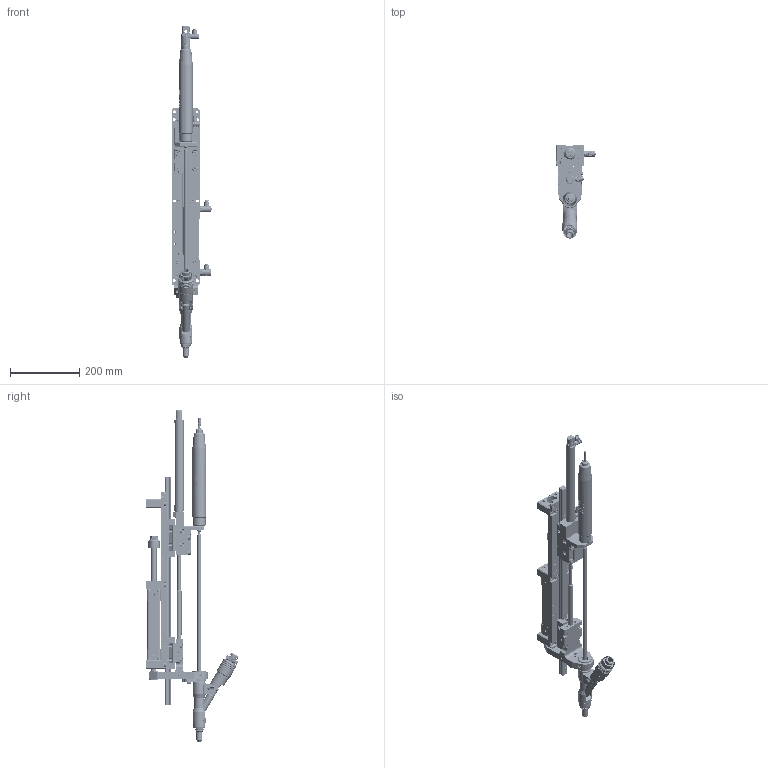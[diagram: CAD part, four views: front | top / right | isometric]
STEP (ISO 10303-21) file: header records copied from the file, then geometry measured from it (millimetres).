
FILE_DESCRIPTION(/* description */ ('© Copyright 2019 – Urheberrechtshinweis Diese CAD-Daten sind urheberrechtlich geschützt. Das Urheberrecht liegt, soweit nicht ausdrücklich anders gekennzeichnet, bei Stöger Automation GmbH. Bitte fragen Sie uns, falls Sie die CAD-Daten vervielfältigen oder','CAx-IF Rec.Pracs.---Representation and Presentation of Product Manufacturing Information (PMI)---4.0---2014-10-13'),/* implementation_level */ '2;1');
FILE_NAME(/* name */ 'H:\00_0 Arbeiten für Marketing\581010\3D_Step_file_automatic_screwdriver_for_screws_SEL101.stp',/* time_stamp */ '2020-07-22T09:43:05+02:00',/* author */ ('Stöger Automation GmbH'),/* organization */ ('Stöger Automation GmbH'),/* preprocessor_version */ 'ST-DEVELOPER v17',/* originating_system */ 'Autodesk Inventor 2018',/* authorisation */ '');
FILE_SCHEMA (('AP242_MANAGED_MODEL_BASED_3D_ENGINEERING_MIM_LF { 1 0 10303 442 1 1 4 }'));
Products named in the file (1): 581010
Bounding box: 115.5 x 268.54 x 959.5 mm (x, y, z)
Volume: 2602308.4 mm3; surface area: 732955.3 mm2
Topology: 7 solids, 78 shells, 5420 faces, 14833 edges, 9893 vertices
Faces by surface type: plane 2675, cylinder 1400, bspline 613, cone 594, torus 123, sphere 15
Full cylindrical faces by diameter (mm): 1 x4, 1.5 x2, 3 x2, 3.1 x2, 3.242 x5, 3.9 x2, 4 x13, 4.134 x22, 4.2 x3, 4.7 x1, 4.917 x25, 5 x18, 5.2 x12, 5.459 x2, 6 x34, 6.2 x11, 6.4 x8, 6.5 x5, 6.647 x28, 7 x1, 8 x24, 8.2 x11, 8.376 x1, 8.4 x19, 8.5 x24, 8.566 x3, 8.8 x1, 9 x1, 9.2 x11, 9.5 x11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
Entity records: 336639 total; most frequent: CARTESIAN_POINT 198058, ORIENTED_EDGE 29484, DIRECTION 26043, EDGE_CURVE 14742, VERTEX_POINT 9894, AXIS2_PLACEMENT_3D 9471, LINE 7101, VECTOR 7101
